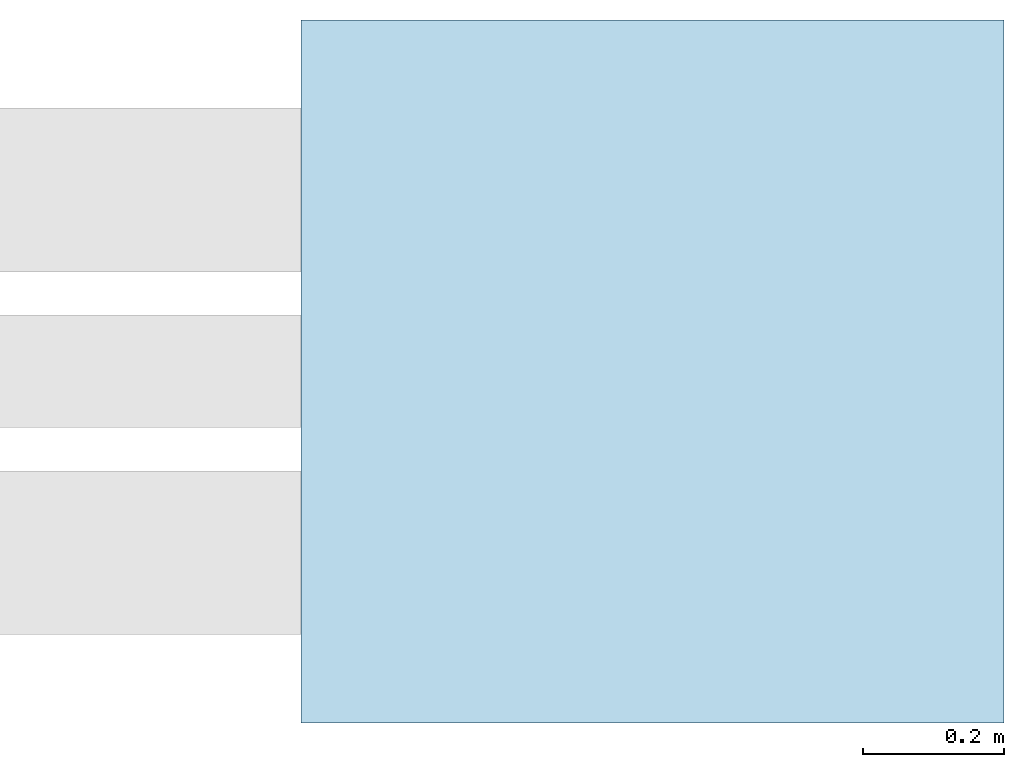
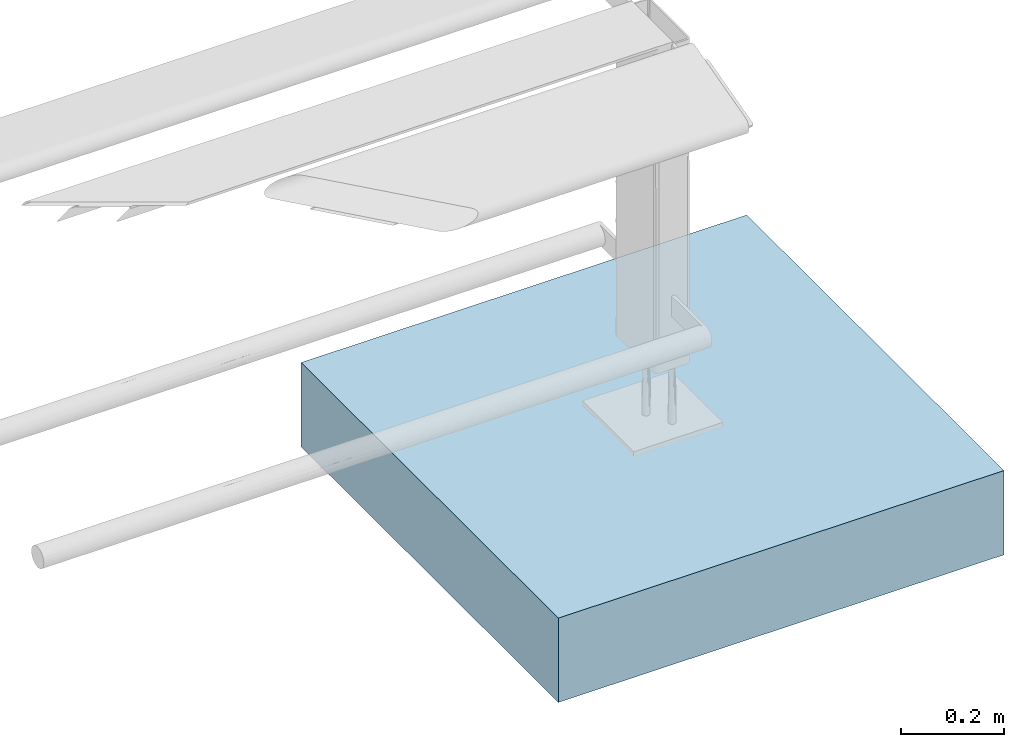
# One storey, incomplete: 1 slab.
"""IFC4 building model written with IfcOpenShell, lengths in metres."""

from ifc_helpers import new_model, entity, si_unit, converted_unit, direction, frame, frame_2d, origin, place, context, subcontext, project, spatial, rectangle, extrude, material, type_object, element, save


model = new_model("IFC4")

# Units and contexts
model_context = context("Model", 3, precision=1e-05, world=origin(), true_north=direction((6.123031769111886e-17, 1.0)))
body_context = subcontext(model_context, "Body", "Model", "MODEL_VIEW")
ifc_project = project(units=[si_unit("LENGTHUNIT", "METRE"), converted_unit("PLANEANGLEUNIT", "DEGREE", entity("IfcPlaneAngleMeasure", 0.017453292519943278), si_unit("PLANEANGLEUNIT", "RADIAN"), dimensions=[0, 0, 0, 0, 0, 0, 0]), si_unit("AREAUNIT", "SQUARE_METRE")], contexts=[model_context])

# Site, building, storey
site_placement = place(None, origin())
site = spatial("IfcSite", under=ifc_project, at=site_placement, Name="Default", CompositionType="ELEMENT")
building_placement = place(site_placement, origin())
building = spatial("IfcBuilding", under=site, at=building_placement, CompositionType="ELEMENT")
storey_placement = place(building_placement, origin())
storey = spatial("IfcBuildingStorey", under=building, at=storey_placement, Name="Ebene 0", CompositionType="ELEMENT", Elevation=0.0)

# Slab
ifc_material = material(Name="DB_Fertigbeton", Category="DB_Beton")
slab_type = type_object("IfcSlabType", Name="DB_Calidum_light_Fundament:DB_Calidum_light_Fundament", PredefinedType="BASESLAB", material=ifc_material)
slab_placement = place(storey_placement, origin())
element("IfcSlab", 1, at=slab_placement, inside=storey, type_object=slab_type, Name="DB_Calidum_light_Fundament:DB_Calidum_light_Fundament", ObjectType="DB_Calidum_light_Fundament:DB_Calidum_light_Fundament", PredefinedType="BASESLAB", context=body_context, shape_type="SweptSolid", body=[
    extrude(rectangle(XDim=0.9999999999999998, YDim=0.9999999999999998, at=frame_2d((0.0, -1.1102230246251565e-16), x_axis=(1.0, 0.0))), frame((1.5000000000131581, 0.0, -0.3619999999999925), z_axis=(0.0, 0.0, 1.0), x_axis=(0.0, 1.0, 0.0)), (0.0, 0.0, 1.0), 0.2),
])

save(model, "model.ifc")
